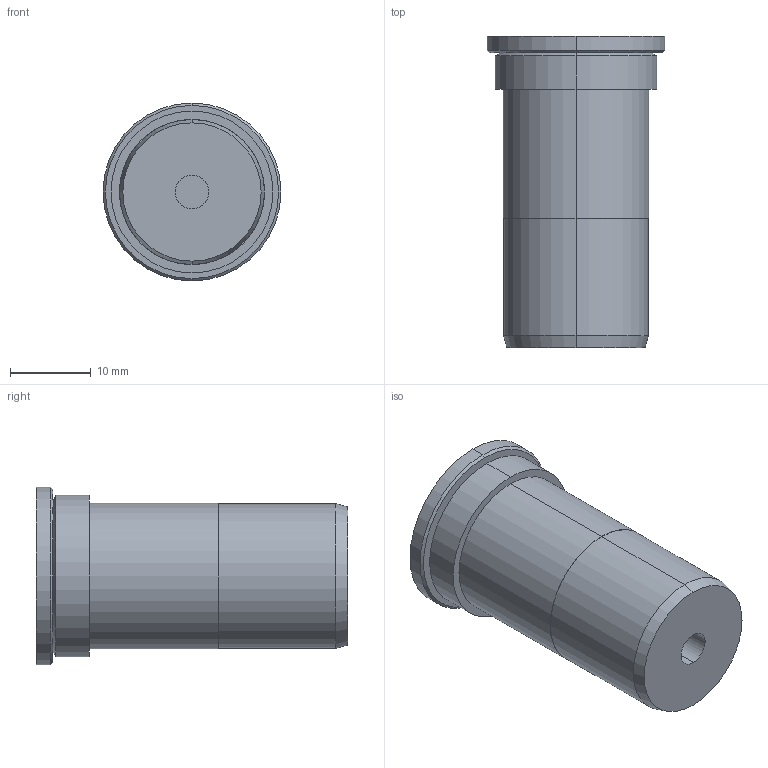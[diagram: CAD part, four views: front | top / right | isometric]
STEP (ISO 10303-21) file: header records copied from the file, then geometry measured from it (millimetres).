
FILE_DESCRIPTION (( 'STEP AP203' ), '1' );
FILE_NAME ('QC022S-06 C.STEP', '2016-06-01T11:28:01', ( '' ), ( '' ), 'SwSTEP 2.0', 'SolidWorks 2016', '' );
FILE_SCHEMA (( 'CONFIG_CONTROL_DESIGN' ));
Length unit declared in the file: millimetre
Products named in the file (1): QC022S-06 C
Bounding box: 22 x 38.5 x 22 mm (x, y, z)
Volume: 4632.4 mm3; surface area: 6412 mm2
Topology: 7 solids, 7 shells, 98 faces, 241 edges, 154 vertices
Faces by surface type: cylinder 40, cone 29, plane 15, sphere 10, torus 4
Entity records: 3290 total; most frequent: CARTESIAN_POINT 1011, DIRECTION 481, ORIENTED_EDGE 432, EDGE_CURVE 216, AXIS2_PLACEMENT_3D 209, VERTEX_POINT 139, EDGE_LOOP 117, CIRCLE 110
